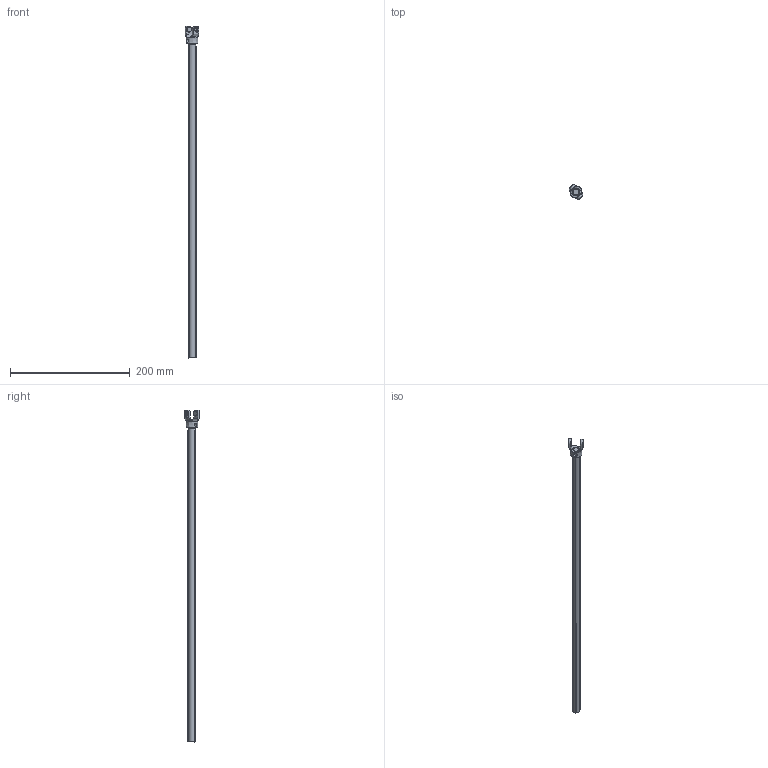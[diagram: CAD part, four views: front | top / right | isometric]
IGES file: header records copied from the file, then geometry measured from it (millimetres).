
Start section: SolidWorks IGES file using analytic representation for surfaces
Global section: file name: C:\Users\SELUHAA\Desktop\Work items\545792\IGES\IRB360_X-800-STD-4D_rev03_IGES_J\IRB360_X-800-STD-4D_rev03_MU_CAD.IGS; native system: SolidWorks 2022; preprocessor: SolidWorks 2022; author: SELUHAA; date: 231128.125120; units: millimetre
Bounding box: 23.32 x 24.95 x 554.8 mm (x, y, z)
Surface area: 27399.4 mm2 (no closed solid volume)
Topology: 0 solids, 0 shells, 90 faces, 1410 edges, 1408 vertices
Faces by surface type: revolution 51, bspline 39
